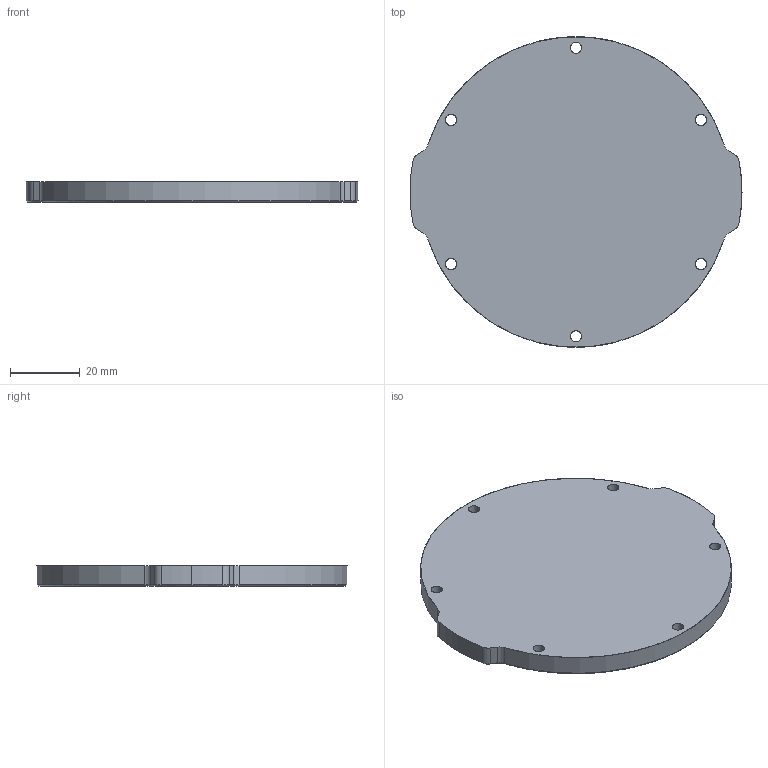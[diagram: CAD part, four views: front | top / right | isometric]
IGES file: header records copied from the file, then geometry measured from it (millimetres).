
Start section: SolidWorks IGES file using analytic representation for surfaces
Global section: file name: C:\Users\Achilles\Dropbox\BR-Engineering\PROJECTS\WTE3\MODELS\DEVELOPMENT\WTE3-M-END-CAP-R1\WTE3-M-END-CAP-R1.IGS; native system: SolidWorks 2016; preprocessor: SolidWorks 2016; author: Achilles; date: 181016.155118; units: millimetre
Bounding box: 95 x 88.9 x 6 mm (x, y, z)
Surface area: 14589 mm2 (no closed solid volume)
Topology: 0 solids, 0 shells, 48 faces, 786 edges, 786 vertices
Faces by surface type: revolution 38, bspline 10
